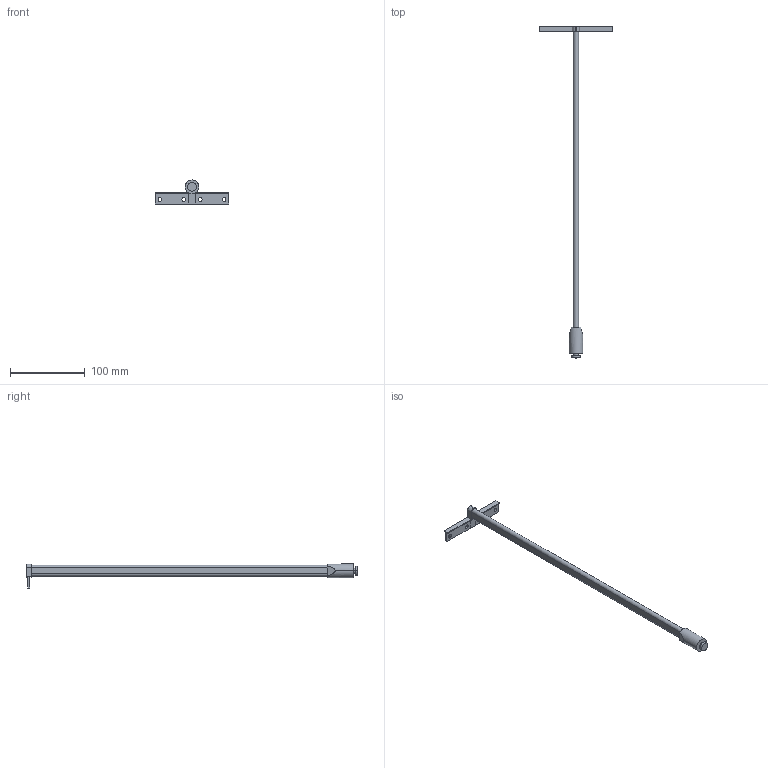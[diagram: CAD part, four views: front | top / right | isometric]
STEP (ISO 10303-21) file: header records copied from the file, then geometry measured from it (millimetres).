
FILE_DESCRIPTION (( 'STEP AP214' ), '1' );
FILE_NAME ('DWD-XP_Reling-Haengeregister_NL450_links.step', '2010-10-06T11:19:41', ( 'grass' ), ( '' ), 'SwSTEP 2.0', 'SolidWorks 2010', '' );
FILE_SCHEMA (( 'AUTOMOTIVE_DESIGN' ));
Length unit declared in the file: millimetre
Products named in the file (1): DWD-XP_Reling-Haengeregister_NL450_links
Bounding box: 97.9 x 444.3 x 32.15 mm (x, y, z)
Volume: 101198.5 mm3; surface area: 41467.8 mm2
Topology: 2 solids, 2 shells, 68 faces, 168 edges, 112 vertices
Faces by surface type: plane 40, cylinder 28
Entity records: 2087 total; most frequent: CARTESIAN_POINT 373, DIRECTION 354, ORIENTED_EDGE 336, EDGE_CURVE 168, AXIS2_PLACEMENT_3D 125, VERTEX_POINT 112, LINE 104, VECTOR 104
